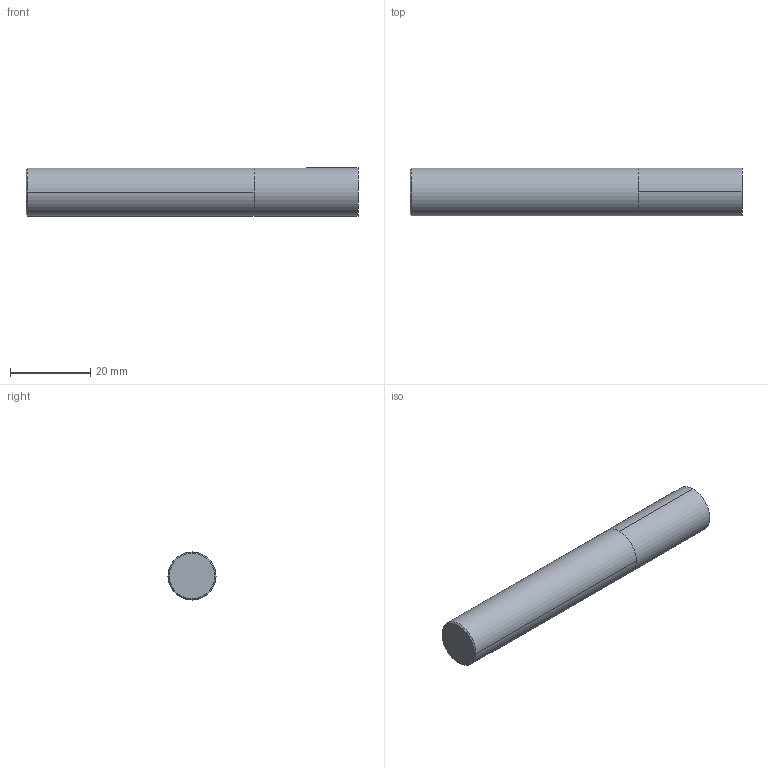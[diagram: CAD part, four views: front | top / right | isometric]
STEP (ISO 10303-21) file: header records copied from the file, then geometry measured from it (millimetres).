
FILE_DESCRIPTION (( 'STEP AP214' ), '1' );
FILE_NAME ('E5H22120.STEP', '2019-07-29T06:02:48', ( 'USER' ), ( '' ), 'SwSTEP 2.0', 'SolidWorks 2014', '' );
FILE_SCHEMA (( 'AUTOMOTIVE_DESIGN' ));
Length unit declared in the file: millimetre
Products named in the file (1): E5H22120
Bounding box: 83 x 12 x 12 mm (x, y, z)
Volume: 9385.4 mm3; surface area: 3574.7 mm2
Topology: 2 solids, 2 shells, 10 faces, 16 edges, 10 vertices
Faces by surface type: cylinder 4, plane 4, cone 2
Entity records: 321 total; most frequent: DIRECTION 48, CARTESIAN_POINT 37, ORIENTED_EDGE 32, AXIS2_PLACEMENT_3D 21, EDGE_CURVE 16, VERTEX_POINT 10, ADVANCED_FACE 10, FACE_OUTER_BOUND 10
